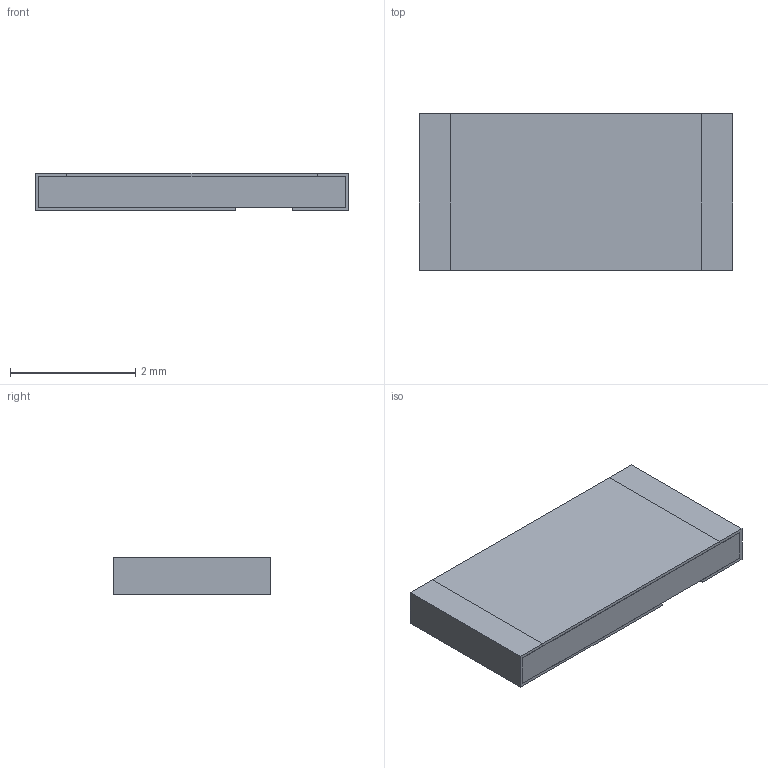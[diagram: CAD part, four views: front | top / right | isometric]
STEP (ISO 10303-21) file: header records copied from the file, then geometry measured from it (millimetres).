
FILE_DESCRIPTION(('STEP AP203'), '1');
FILE_NAME('P1-85-5-1', '', ('UNSPECIFIED'), ('UNSPECIFIED'), 'ASCON STEP Converter 1.6', 'ASCON Math Kernel', '');
FILE_SCHEMA(('CONFIG_CONTROL_DESIGN'));
Length unit declared in the file: millimetre
Bounding box: 5 x 2.5 x 0.6 mm (x, y, z)
Volume: 7.4 mm3; surface area: 85.2 mm2
Topology: 4 solids, 5 shells, 51 faces, 123 edges, 82 vertices
Faces by surface type: plane 47, cylinder 4
Entity records: 1937 total; most frequent: CARTESIAN_POINT 257, ORIENTED_EDGE 246, DIRECTION 235, EDGE_CURVE 123, LINE 115, VECTOR 115, VERTEX_POINT 82, AXIS2_PLACEMENT_3D 60
